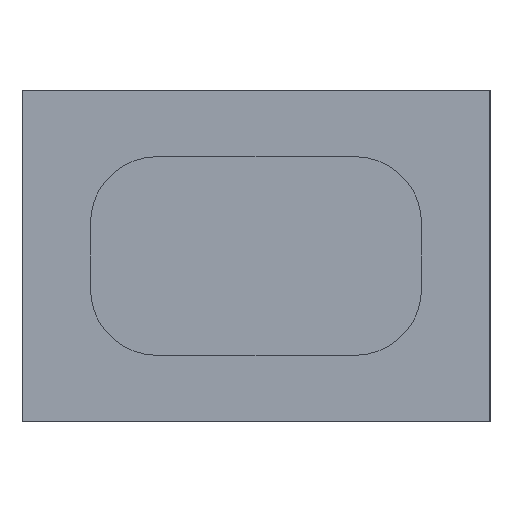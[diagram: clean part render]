
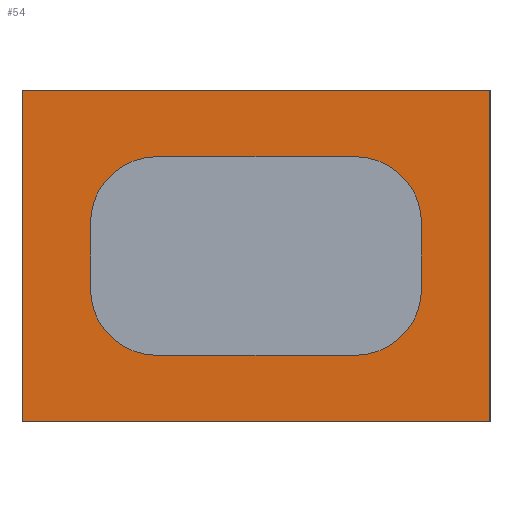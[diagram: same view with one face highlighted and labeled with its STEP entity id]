
A CAD part, left-side view. The second image highlights one B-rep face of the part: STEP entity #54.
In plain terms, the highlighted planar face has unit normal (-1, 0, 0).
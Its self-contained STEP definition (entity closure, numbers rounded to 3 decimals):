
#54=ADVANCED_FACE('',(#96,#97),#72,.F.);
#72=PLANE('',#337);
#82=CIRCLE('',#333,2.);
#83=CIRCLE('',#334,2.);
#84=CIRCLE('',#335,2.);
#85=CIRCLE('',#336,2.);
#96=FACE_BOUND('',#108,.T.);
#97=FACE_BOUND('',#109,.T.);
#108=EDGE_LOOP('',(#132,#133,#134,#135));
#109=EDGE_LOOP('',(#136,#137,#138,#139,#140,#141,#142,#143));
#132=ORIENTED_EDGE('',*,*,#240,.T.);
#133=ORIENTED_EDGE('',*,*,#241,.F.);
#134=ORIENTED_EDGE('',*,*,#242,.F.);
#135=ORIENTED_EDGE('',*,*,#243,.T.);
#136=ORIENTED_EDGE('',*,*,#244,.F.);
#137=ORIENTED_EDGE('',*,*,#245,.T.);
#138=ORIENTED_EDGE('',*,*,#246,.F.);
#139=ORIENTED_EDGE('',*,*,#247,.T.);
#140=ORIENTED_EDGE('',*,*,#248,.F.);
#141=ORIENTED_EDGE('',*,*,#249,.T.);
#142=ORIENTED_EDGE('',*,*,#250,.F.);
#143=ORIENTED_EDGE('',*,*,#251,.T.);
#212=VERTEX_POINT('',#459);
#213=VERTEX_POINT('',#460);
#214=VERTEX_POINT('',#462);
#215=VERTEX_POINT('',#464);
#216=VERTEX_POINT('',#467);
#217=VERTEX_POINT('',#468);
#218=VERTEX_POINT('',#470);
#219=VERTEX_POINT('',#472);
#220=VERTEX_POINT('',#474);
#221=VERTEX_POINT('',#476);
#222=VERTEX_POINT('',#478);
#223=VERTEX_POINT('',#480);
#240=EDGE_CURVE('',#212,#213,#280,.T.);
#241=EDGE_CURVE('',#214,#213,#281,.T.);
#242=EDGE_CURVE('',#215,#214,#282,.T.);
#243=EDGE_CURVE('',#215,#212,#283,.T.);
#244=EDGE_CURVE('',#216,#217,#284,.T.);
#245=EDGE_CURVE('',#216,#218,#82,.T.);
#246=EDGE_CURVE('',#219,#218,#285,.T.);
#247=EDGE_CURVE('',#219,#220,#83,.T.);
#248=EDGE_CURVE('',#221,#220,#286,.T.);
#249=EDGE_CURVE('',#221,#222,#84,.T.);
#250=EDGE_CURVE('',#223,#222,#287,.T.);
#251=EDGE_CURVE('',#223,#217,#85,.T.);
#280=LINE('',#458,#306);
#281=LINE('',#461,#307);
#282=LINE('',#463,#308);
#283=LINE('',#465,#309);
#284=LINE('',#466,#310);
#285=LINE('',#471,#311);
#286=LINE('',#475,#312);
#287=LINE('',#479,#313);
#306=VECTOR('',#367,1.);
#307=VECTOR('',#368,1.);
#308=VECTOR('',#369,1.);
#309=VECTOR('',#370,1.);
#310=VECTOR('',#371,1.);
#311=VECTOR('',#374,1.);
#312=VECTOR('',#377,1.);
#313=VECTOR('',#380,1.);
#333=AXIS2_PLACEMENT_3D('',#469,#372,#373);
#334=AXIS2_PLACEMENT_3D('',#473,#375,#376);
#335=AXIS2_PLACEMENT_3D('',#477,#378,#379);
#336=AXIS2_PLACEMENT_3D('',#481,#381,#382);
#337=AXIS2_PLACEMENT_3D('',#482,#383,#384);
#367=DIRECTION('',(0.,-1.,0.));
#368=DIRECTION('',(0.,0.,-1.));
#369=DIRECTION('',(0.,-1.,0.));
#370=DIRECTION('',(0.,0.,-1.));
#371=DIRECTION('',(0.,0.,1.));
#372=DIRECTION('',(1.,0.,0.));
#373=DIRECTION('',(0.,0.,-1.));
#374=DIRECTION('',(0.,-1.,0.));
#375=DIRECTION('',(1.,0.,0.));
#376=DIRECTION('',(0.,0.,-1.));
#377=DIRECTION('',(0.,0.,-1.));
#378=DIRECTION('',(1.,0.,0.));
#379=DIRECTION('',(0.,0.,-1.));
#380=DIRECTION('',(0.,1.,0.));
#381=DIRECTION('',(1.,0.,0.));
#382=DIRECTION('',(0.,0.,-1.));
#383=DIRECTION('',(1.,0.,0.));
#384=DIRECTION('',(0.,0.,-1.));
#458=CARTESIAN_POINT('',(-17.071,7.071,0.));
#459=CARTESIAN_POINT('',(-17.071,7.071,0.));
#460=CARTESIAN_POINT('',(-17.071,-7.071,0.));
#461=CARTESIAN_POINT('',(-17.071,-7.071,10.));
#462=CARTESIAN_POINT('',(-17.071,-7.071,10.));
#463=CARTESIAN_POINT('',(-17.071,7.071,10.));
#464=CARTESIAN_POINT('',(-17.071,7.071,10.));
#465=CARTESIAN_POINT('',(-17.071,7.071,10.));
#466=CARTESIAN_POINT('',(-17.071,-5.,2.));
#467=CARTESIAN_POINT('',(-17.071,-5.,4.));
#468=CARTESIAN_POINT('',(-17.071,-5.,6.));
#469=CARTESIAN_POINT('',(-17.071,-3.,4.));
#470=CARTESIAN_POINT('',(-17.071,-3.,2.));
#471=CARTESIAN_POINT('',(-17.071,5.,2.));
#472=CARTESIAN_POINT('',(-17.071,3.,2.));
#473=CARTESIAN_POINT('',(-17.071,3.,4.));
#474=CARTESIAN_POINT('',(-17.071,5.,4.));
#475=CARTESIAN_POINT('',(-17.071,5.,8.));
#476=CARTESIAN_POINT('',(-17.071,5.,6.));
#477=CARTESIAN_POINT('',(-17.071,3.,6.));
#478=CARTESIAN_POINT('',(-17.071,3.,8.));
#479=CARTESIAN_POINT('',(-17.071,-5.,8.));
#480=CARTESIAN_POINT('',(-17.071,-3.,8.));
#481=CARTESIAN_POINT('',(-17.071,-3.,6.));
#482=CARTESIAN_POINT('',(-17.071,7.071,10.));
